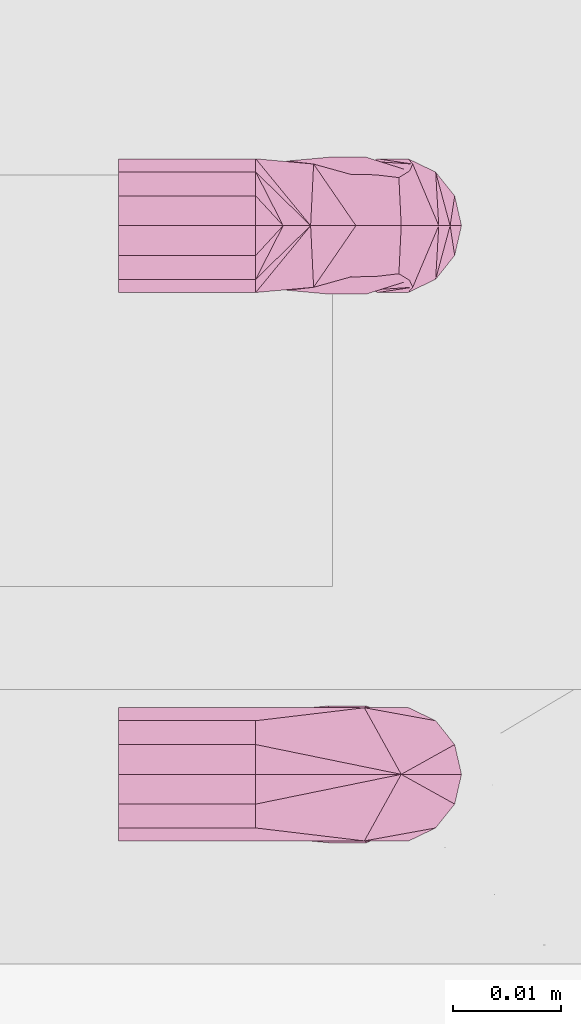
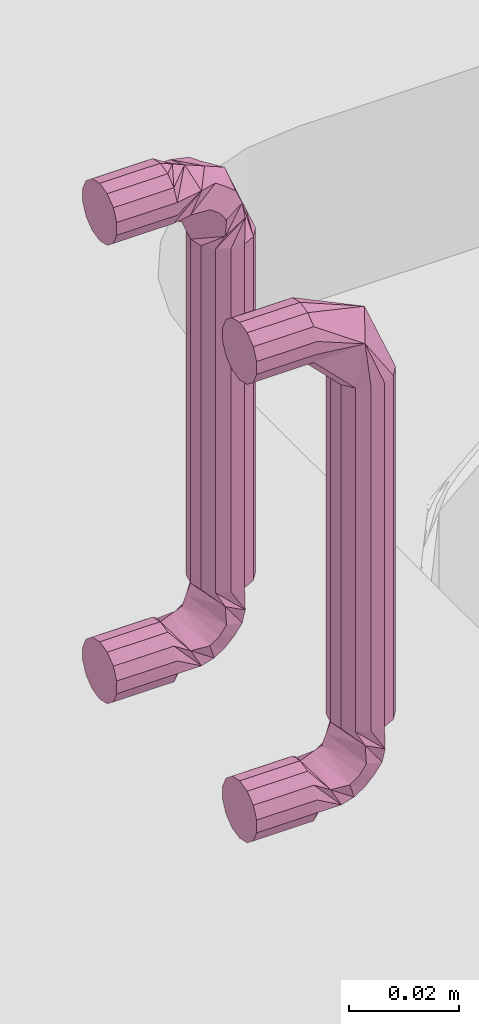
# One storey, part 31 of 40: 1 furnishing.
"""IFC2X3 building model written with IfcOpenShell, lengths in metres."""

import ifcopenshell
import ifcopenshell.guid

model = None  # the IFC model being written
_history = None  # IfcOwnerHistory: only IFC2X3 demands one
_inside = {}  # id of a spatial element -> (the spatial element, [elements in it])
_under = {}  # id of a project, library or spatial element -> (it, [spatial elements below it])
_declared = {}  # id of a project -> (the project, [libraries it declares])
_typed = {}  # id of a type object -> (the type object, [elements of that type])
_made_of = {}  # id of a material, layer set ... -> (it, [elements and type objects made of it])


def new_model(schema):
    """Start an empty IFC model of exactly this schema.

    Asked for "IFC4X3", IfcOpenShell would pick the latest addendum, in which some entities
    have other attributes; the version numbers below select the first issue.
    IFC2X3 requires an IfcOwnerHistory on every rooted entity: one is made here for all.
    """
    global model, _history
    if schema == "IFC4X3":
        model = ifcopenshell.file(schema_version=(4, 3, 0, 0))
    else:
        model = ifcopenshell.file(schema=schema)
    _inside.clear()
    _under.clear()
    _declared.clear()
    _typed.clear()
    _made_of.clear()
    _history = None
    if model.schema == "IFC2X3":
        org = make("IfcOrganization", Name="unknown")
        user = make(
            "IfcPersonAndOrganization",
            ThePerson=make("IfcPerson", FamilyName="unknown"),
            TheOrganization=org,
        )
        app = make(
            "IfcApplication",
            ApplicationDeveloper=org,
            Version="unknown",
            ApplicationFullName="unknown",
            ApplicationIdentifier="unknown",
        )
        _history = make(
            "IfcOwnerHistory",
            OwningUser=user,
            OwningApplication=app,
            ChangeAction="ADDED",
            CreationDate=0,
        )
    return model


def make(cls, **values):
    """One entity of the class cls with the attributes given. An attribute that is None is left unset."""
    return model.create_entity(
        cls, **{name: value for name, value in values.items() if value is not None}
    )


def entity(cls, *values):
    """Any entity or typed value of the class cls, its attributes in the order of the schema. None: left unset."""
    e = model.create_entity(cls)
    for i, value in enumerate(values):
        if value is not None:
            e[i] = value
    return e


def rooted(cls, **values):
    """An entity with a GlobalId (a new one), such as an element, a storey or a relation."""
    return make(cls, GlobalId=ifcopenshell.guid.new(), OwnerHistory=_history, **values)


def si_unit(unit_type, name, prefix=None):
    """IfcSIUnit, for example si_unit("LENGTHUNIT", "METRE", prefix="MILLI")."""
    return make("IfcSIUnit", UnitType=unit_type, Prefix=prefix, Name=name)


def converted_unit(unit_type, name, factor, base, dimensions=None, offset=None):
    """IfcConversionBasedUnit, such as the inch: factor (a typed value) times the base unit."""
    return make(
        "IfcConversionBasedUnit"
        if offset is None
        else "IfcConversionBasedUnitWithOffset",
        ConversionOffset=offset,
        Dimensions=None
        if dimensions is None
        else entity("IfcDimensionalExponents", *dimensions),
        UnitType=unit_type,
        Name=name,
        ConversionFactor=make(
            "IfcMeasureWithUnit", ValueComponent=factor, UnitComponent=base
        ),
    )


def derived_unit(unit_type, elements):
    """IfcDerivedUnit: a product of units, each with its exponent."""
    return make(
        "IfcDerivedUnit",
        Elements=[
            make("IfcDerivedUnitElement", Unit=unit, Exponent=power)
            for unit, power in elements
        ],
        UnitType=unit_type,
    )


def assignment(units):
    """IfcUnitAssignment: the units of a project."""
    return None if units is None else make("IfcUnitAssignment", Units=units)


def point(xyz):
    """IfcCartesianPoint."""
    return None if xyz is None else make("IfcCartesianPoint", Coordinates=xyz)


def direction(xyz):
    """IfcDirection."""
    return None if xyz is None else make("IfcDirection", DirectionRatios=xyz)


def frame(location, z_axis=None, x_axis=None):
    """IfcAxis2Placement3D, a coordinate frame: its origin and axes. An axis left out is left unset."""
    return make(
        "IfcAxis2Placement3D",
        Location=point(location),
        Axis=direction(z_axis),
        RefDirection=direction(x_axis),
    )


def origin():
    """The frame at (0, 0, 0) with its axes left unset."""
    return frame((0.0, 0.0, 0.0))


def place(relative_to, where):
    """IfcLocalPlacement: puts the frame where relative to a parent placement (None: the world)."""
    return make(
        "IfcLocalPlacement", PlacementRelTo=relative_to, RelativePlacement=where
    )


def context(
    kind, dimensions, precision=None, world=None, true_north=None, identifier=None
):
    """IfcGeometricRepresentationContext, for example the 3D "Model" context."""
    return make(
        "IfcGeometricRepresentationContext",
        ContextIdentifier=identifier,
        ContextType=kind,
        CoordinateSpaceDimension=dimensions,
        Precision=precision,
        WorldCoordinateSystem=world,
        TrueNorth=true_north,
    )


def subcontext(parent, identifier, kind, view, scale=None):
    """IfcGeometricRepresentationSubContext, for example "Body" below "Model"."""
    return make(
        "IfcGeometricRepresentationSubContext",
        ContextIdentifier=identifier,
        ContextType=kind,
        ParentContext=parent,
        TargetScale=scale,
        TargetView=view,
    )


def project(units=None, contexts=None):
    """IfcProject with its units and contexts."""
    return rooted(
        "IfcProject",
        Name="project",
        RepresentationContexts=contexts,
        UnitsInContext=assignment(units),
    )


def spatial(cls, under=None, at=None, **own):
    """A site, building, storey or space (cls), placed at a placement, below another one or the project."""
    s = rooted(cls, ObjectPlacement=at, **own)
    if under is not None:
        _under.setdefault(under.id(), (under, []))[1].append(s)
    return s


def faces_of(points, faces, orient=None, outer=None):
    """IfcFace entities. A face is a list of loops; a loop is a list of indices into points, from 0.

    orient and outer hold one flag for each loop. By default every Orientation is true, the
    first loop of a face is its IfcFaceOuterBound and the others are IfcFaceBound.
    """
    made = []
    for i, loops in enumerate(faces):
        bounds = []
        for j, loop in enumerate(loops):
            is_outer = j == 0 if outer is None else outer[i][j]
            bounds.append(
                make(
                    "IfcFaceOuterBound" if is_outer else "IfcFaceBound",
                    Bound=make("IfcPolyLoop", Polygon=[points[k] for k in loop]),
                    Orientation=True if orient is None else orient[i][j],
                )
            )
        made.append(make("IfcFace", Bounds=bounds))
    return made


def faceted_brep(points, faces, orient=None, outer=None, voids=None):
    """IfcFacetedBrep: a solid bounded by flat faces; with voids (closed shells), ...WithVoids."""
    shared = [point(p) for p in points]
    hull = make("IfcClosedShell", CfsFaces=faces_of(shared, faces, orient, outer))
    if voids is None:
        return make("IfcFacetedBrep", Outer=hull)
    return make(
        "IfcFacetedBrepWithVoids",
        Outer=hull,
        Voids=[
            make(cls, CfsFaces=faces_of(shared, fs, o, b)) for cls, fs, o, b in voids
        ],
    )


def shape(context_of_items, identifier, shape_type, items):
    """IfcShapeRepresentation: the items that make up one representation, for example the "Body"."""
    return make(
        "IfcShapeRepresentation",
        ContextOfItems=context_of_items,
        RepresentationIdentifier=identifier,
        RepresentationType=shape_type,
        Items=items,
    )


def source(mapping_origin, context_of_items, identifier, shape_type, items):
    """IfcRepresentationMap: a shape defined once, which mapped items show again and again."""
    return make(
        "IfcRepresentationMap",
        MappingOrigin=mapping_origin,
        MappedRepresentation=shape(context_of_items, identifier, shape_type, items),
    )


def transform(
    local_origin,
    x_axis=None,
    y_axis=None,
    z_axis=None,
    scale=None,
    scale2=None,
    scale3=None,
    uniform=True,
):
    """IfcCartesianTransformationOperator3D, or its non-uniform kind. x_axis, y_axis, z_axis: its Axis1, 2, 3."""
    if uniform:
        return make(
            "IfcCartesianTransformationOperator3D",
            Axis1=direction(x_axis),
            Axis2=direction(y_axis),
            LocalOrigin=point(local_origin),
            Scale=scale,
            Axis3=direction(z_axis),
        )
    return make(
        "IfcCartesianTransformationOperator3DnonUniform",
        Axis1=direction(x_axis),
        Axis2=direction(y_axis),
        LocalOrigin=point(local_origin),
        Scale=scale,
        Axis3=direction(z_axis),
        Scale2=scale2,
        Scale3=scale3,
    )


def mapped(mapping_source, mapping_target):
    """IfcMappedItem: shows the shape of a source again, moved by a transform."""
    return make(
        "IfcMappedItem", MappingSource=mapping_source, MappingTarget=mapping_target
    )


def material(Name=None, Category=None):
    """IfcMaterial."""
    return make("IfcMaterial", Name=Name, Category=Category)


def made_of(thing, what):
    """Note that an element or type object is made of a material, layer set ...; save() writes the relation."""
    if what is not None:
        _made_of.setdefault(what.id(), (what, []))[1].append(thing)
    return thing


def type_object(cls, material=None, **own):
    """A type object (cls), such as IfcWallType, which elements share."""
    return made_of(rooted(cls, **own), material)


def type_shapes(of_type, sources):
    """Give a type object the sources (RepresentationMaps) that its elements show as mapped items."""
    of_type.RepresentationMaps = sources


def element(
    cls,
    number,
    at=None,
    inside=None,
    cuts=None,
    type_object=None,
    material=None,
    context=None,
    identifier="Body",
    shape_type=None,
    held_by="IfcProductDefinitionShape",
    body=None,
    shapes=None,
    **own,
):
    """One element of the class cls, such as IfcWall. Its Tag is "e" and its number.

    at: its placement. inside: the storey or other place that contains it. cuts: it is an
    opening in that element (IfcRelVoidsElement). A single representation is given by context,
    identifier, shape_type and body (its items); several are given by shapes. held_by: the class
    of the entity that holds the representations. save() writes the other relations.
    """
    e = rooted(cls, Tag="e%d" % number, ObjectPlacement=at, **own)
    if body is not None:
        shapes = [shape(context, identifier, shape_type, body)]
    if shapes is not None:
        e.Representation = make(held_by, Representations=shapes)
    if inside is not None:
        _inside.setdefault(inside.id(), (inside, []))[1].append(e)
    if cuts is not None:
        rooted(
            "IfcRelVoidsElement", RelatingBuildingElement=cuts, RelatedOpeningElement=e
        )
    if type_object is not None:
        _typed.setdefault(type_object.id(), (type_object, []))[1].append(e)
    return made_of(e, material)


def aggregate(whole, parts):
    """IfcRelAggregates: a whole, such as a stair, and the parts it consists of."""
    return rooted("IfcRelAggregates", RelatingObject=whole, RelatedObjects=parts)


def save(model, path):
    """Write the relations noted so far, then the file.

    IfcRelAggregates (storeys below a building ...), IfcRelContainedInSpatialStructure (elements
    in a storey), IfcRelDefinesByType, IfcRelAssociatesMaterial and IfcRelDeclares: one each for
    every whole, place, type object, material and project.
    """
    for whole, parts in _under.values():
        aggregate(whole, parts)
    for where, things in _inside.values():
        rooted(
            "IfcRelContainedInSpatialStructure",
            RelatedElements=things,
            RelatingStructure=where,
        )
    for kind, things in _typed.values():
        rooted("IfcRelDefinesByType", RelatedObjects=things, RelatingType=kind)
    for what, things in _made_of.values():
        rooted("IfcRelAssociatesMaterial", RelatedObjects=things, RelatingMaterial=what)
    for by, libraries in _declared.values():
        rooted("IfcRelDeclares", RelatingContext=by, RelatedDefinitions=libraries)
    model.write(path)


model = new_model("IFC2X3")

# Units and contexts
model_context = context("Model", 3, precision=1e-05, world=origin(), true_north=direction((6.12303176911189e-17, 1.0)))
body_context = subcontext(model_context, "Body", "Model", "MODEL_VIEW")
ifc_project = project(units=[si_unit("LENGTHUNIT", "METRE"), si_unit("AREAUNIT", "SQUARE_METRE"), si_unit("VOLUMEUNIT", "CUBIC_METRE"), converted_unit("PLANEANGLEUNIT", "DEGREE", entity("IfcRatioMeasure", 0.0174532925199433), si_unit("PLANEANGLEUNIT", "RADIAN"), dimensions=[0, 0, 0, 0, 0, 0, 0]), si_unit("MASSUNIT", "GRAM", prefix="KILO"), derived_unit("MASSDENSITYUNIT", [(si_unit("MASSUNIT", "GRAM", prefix="KILO"), 1), (si_unit("LENGTHUNIT", "METRE"), -3)]), si_unit("TIMEUNIT", "SECOND"), si_unit("FREQUENCYUNIT", "HERTZ"), si_unit("THERMODYNAMICTEMPERATUREUNIT", "DEGREE_CELSIUS"), derived_unit("THERMALTRANSMITTANCEUNIT", [(si_unit("MASSUNIT", "GRAM", prefix="KILO"), 1), (si_unit("THERMODYNAMICTEMPERATUREUNIT", "KELVIN"), -1), (si_unit("TIMEUNIT", "SECOND"), -3)]), derived_unit("VOLUMETRICFLOWRATEUNIT", [(si_unit("LENGTHUNIT", "METRE"), 3), (si_unit("TIMEUNIT", "SECOND"), -1)]), si_unit("ELECTRICCURRENTUNIT", "AMPERE"), si_unit("ELECTRICVOLTAGEUNIT", "VOLT"), si_unit("POWERUNIT", "WATT"), si_unit("FORCEUNIT", "NEWTON", prefix="KILO"), si_unit("ILLUMINANCEUNIT", "LUX"), si_unit("LUMINOUSFLUXUNIT", "LUMEN"), si_unit("LUMINOUSINTENSITYUNIT", "CANDELA"), derived_unit("USERDEFINED", [(si_unit("MASSUNIT", "GRAM", prefix="KILO"), -1), (si_unit("LENGTHUNIT", "METRE"), -2), (si_unit("TIMEUNIT", "SECOND"), 3), (si_unit("LUMINOUSFLUXUNIT", "LUMEN"), 1)]), derived_unit("LINEARVELOCITYUNIT", [(si_unit("LENGTHUNIT", "METRE"), 1), (si_unit("TIMEUNIT", "SECOND"), -1)]), si_unit("PRESSUREUNIT", "PASCAL"), derived_unit("USERDEFINED", [(si_unit("LENGTHUNIT", "METRE"), -2), (si_unit("MASSUNIT", "GRAM", prefix="KILO"), 1), (si_unit("TIMEUNIT", "SECOND"), -2)])], contexts=[model_context])

# Site, building, storey, space
site_placement = place(None, origin())
site = spatial("IfcSite", under=ifc_project, at=site_placement, Name="Surface", CompositionType="ELEMENT")
building_placement = place(site_placement, origin())
building = spatial("IfcBuilding", under=site, at=building_placement, CompositionType="ELEMENT")
storey_placement = place(building_placement, origin())
storey = spatial("IfcBuildingStorey", under=building, at=storey_placement, Name="RDC", CompositionType="ELEMENT", Elevation=-1.0941605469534e-13)
space_placement = place(storey_placement, origin())
space = spatial("IfcSpace", under=storey, at=space_placement, Name="21", CompositionType="ELEMENT", InteriorOrExteriorSpace="INTERNAL")

# Furnishing
ifc_material = material(Name="Plastique - Noir")
furniture_type = type_object("IfcFurnitureType", Name="670 mm", material=ifc_material)
shared_shape = source(origin(), body_context, "Body", "Brep", [
    faceted_brep([(0.0536136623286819, 0.0, 0.10557833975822), (0.0558231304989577, 0.0, 0.103816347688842), (0.0585782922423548, 0.0, 0.103187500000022), (0.0613334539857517, 0.0, 0.103816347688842), (0.0635429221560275, 0.0, 0.10557833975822), (0.0647690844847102, 0.0, 0.108124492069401), (0.0647690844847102, 0.0, 0.110950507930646), (0.0635429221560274, 0.0, 0.113496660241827), (0.0613334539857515, 0.0, 0.115258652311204), (0.0585782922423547, 0.0, 0.115887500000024), (0.0558231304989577, 0.0, 0.115258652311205), (0.0536136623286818, 0.0, 0.113496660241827), (0.052387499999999, 0.0, 0.110950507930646), (0.052387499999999, 0.0, 0.1081244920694), (0.0585782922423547, 0.0, 0.0142875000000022), (0.0558231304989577, 0.0, 0.0136586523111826), (0.0536136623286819, 0.0, 0.0118966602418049), (0.0523874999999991, 0.0, 0.00935050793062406), (0.0523874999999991, 0.0, 0.00652449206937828), (0.0536136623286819, 0.0, 0.00397833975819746), (0.0558231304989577, 0.0, 0.00221634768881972), (0.0585782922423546, 0.0, 0.00158750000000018), (0.0613334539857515, 0.0, 0.00221634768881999), (0.0635429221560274, 0.0, 0.00397833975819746), (0.0647690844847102, 0.0, 0.00652449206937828), (0.0647690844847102, 0.0, 0.00935050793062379), (0.0635429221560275, 0.0, 0.0118966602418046), (0.0613334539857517, 0.0, 0.0136586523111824), (0.0585782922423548, 0.0127000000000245, 0.103187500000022), (0.0613334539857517, 0.0127000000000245, 0.103816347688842), (0.0635429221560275, 0.0127000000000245, 0.10557833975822), (0.0647690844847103, 0.0127000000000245, 0.108124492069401), (0.0647690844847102, 0.0127000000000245, 0.110950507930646), (0.0647690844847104, 0.0239869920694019, 0.0206375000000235), (0.0647690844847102, 0.0268130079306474, 0.0206375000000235), (0.0647690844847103, 0.0268130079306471, 0.0968375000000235), (0.0647690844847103, 0.0239869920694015, 0.0968375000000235), (0.0647690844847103, 0.0127000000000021, 0.00652449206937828), (0.0647690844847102, 0.0127000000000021, 0.00935050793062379), (0.0635429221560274, 0.0127000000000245, 0.113496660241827), (0.0613334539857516, 0.0127000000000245, 0.115258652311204), (0.0585782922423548, 0.0127000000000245, 0.115887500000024), (0.0558231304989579, 0.0127000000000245, 0.115258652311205), (0.053613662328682, 0.0127000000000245, 0.113496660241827), (0.0523874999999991, 0.0127000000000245, 0.110950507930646), (0.0523874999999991, 0.0127000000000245, 0.1081244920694), (0.0523874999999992, 0.0268130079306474, 0.0206375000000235), (0.0523874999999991, 0.0239869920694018, 0.0206375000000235), (0.0523874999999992, 0.0239869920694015, 0.0968375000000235), (0.0523874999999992, 0.0268130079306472, 0.0968375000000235), (0.0523874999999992, 0.0127000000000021, 0.00935050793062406), (0.0523874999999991, 0.0127000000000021, 0.00652449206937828), (0.0536136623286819, 0.0127000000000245, 0.10557833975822), (0.0558231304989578, 0.0127000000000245, 0.103816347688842), (0.0647426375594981, 0.0227580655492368, 0.106895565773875), (0.0635429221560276, 0.0214408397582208, 0.0968375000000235), (0.0613334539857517, 0.0196788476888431, 0.0968375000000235), (0.0585782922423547, 0.0261703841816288, 0.110307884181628), (0.0585782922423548, 0.0171901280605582, 0.101327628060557), (0.0585782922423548, 0.0190500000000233, 0.0968375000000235), (0.0635429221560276, 0.0293591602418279, 0.0968375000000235), (0.0613334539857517, 0.0311211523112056, 0.0968375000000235), (0.0585782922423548, 0.0317500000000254, 0.0968375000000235), (0.0524139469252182, 0.0227580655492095, 0.106895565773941), (0.0536136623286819, 0.0214408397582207, 0.0968375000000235), (0.0558231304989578, 0.019678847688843, 0.0968375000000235), (0.0536136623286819, 0.029359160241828, 0.0968375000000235), (0.0558231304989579, 0.0311211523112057, 0.0968375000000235), (0.0585782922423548, 0.0190500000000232, 0.0206375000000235), (0.0613334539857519, 0.0196788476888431, 0.0206375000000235), (0.0635429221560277, 0.021440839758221, 0.0206375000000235), (0.0635429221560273, 0.0293591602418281, 0.0206375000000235), (0.0613334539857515, 0.0311211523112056, 0.0206375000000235), (0.0595979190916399, 0.0315172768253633, 0.0206375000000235), (0.0585782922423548, 0.0317500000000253, 0.0206375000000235), (0.0575586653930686, 0.0315172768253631, 0.0206375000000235), (0.055823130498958, 0.0311211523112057, 0.0206375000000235), (0.0536136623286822, 0.0293591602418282, 0.0206375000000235), (0.0536136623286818, 0.0214408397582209, 0.0206375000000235), (0.0558231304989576, 0.019678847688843, 0.0206375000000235), (0.0642824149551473, 0.0180594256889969, 0.00610394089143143), (0.0585782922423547, 0.0177817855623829, 0.00369244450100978), (0.0585782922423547, 0.0198789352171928, 0.00456111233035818), (0.0585782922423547, 0.0219760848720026, 0.00542978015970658), (0.0585782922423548, 0.0314868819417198, 0.0200022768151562), (0.0585782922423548, 0.0306975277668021, 0.018096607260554), (0.0585782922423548, 0.0312237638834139, 0.0193670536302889), (0.064282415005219, 0.0272335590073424, 0.0152780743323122), (0.0585782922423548, 0.0296450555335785, 0.0155557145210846), (0.0585782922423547, 0.0279077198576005, 0.0113614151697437), (0.0633238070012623, 0.0271480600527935, 0.0118331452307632), (0.0585782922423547, 0.0270390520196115, 0.00926426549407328), (0.0632866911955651, 0.0255502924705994, 0.00956794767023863), (0.0649134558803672, 0.0229286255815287, 0.0138673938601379), (0.0585782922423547, 0.0287763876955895, 0.0134585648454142), (0.0630302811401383, 0.0237059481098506, 0.00738339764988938), (0.0585782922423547, 0.0261703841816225, 0.00716711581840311), (0.0645648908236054, 0.0228709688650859, 0.017714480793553), (0.0595979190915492, 0.0127000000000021, 0.00182022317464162), (0.0585782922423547, 0.0127000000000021, 0.00158749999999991), (0.0585782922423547, 0.0133352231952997, 0.00185061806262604), (0.0585782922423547, 0.0139704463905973, 0.00211373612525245), (0.0585782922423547, 0.0152408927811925, 0.00263997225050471), (0.0613334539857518, 0.0127000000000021, 0.00221634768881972), (0.0645648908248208, 0.0156230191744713, 0.010466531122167), (0.0635429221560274, 0.0127000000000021, 0.0118966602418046), (0.0585782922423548, 0.0127000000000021, 0.0142875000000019), (0.0613334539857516, 0.0127000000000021, 0.0136586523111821), (0.0635429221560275, 0.0127000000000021, 0.00397833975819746), (0.0585782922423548, 0.014945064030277, 0.0152174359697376), (0.0585782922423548, 0.0181200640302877, 0.0183924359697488), (0.0585782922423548, 0.0171901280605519, 0.0161473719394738), (0.0649134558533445, 0.0194701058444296, 0.0104088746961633), (0.0649215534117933, 0.0214734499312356, 0.0118640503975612), (0.0636450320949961, 0.0210762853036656, 0.00638969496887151), (0.0585782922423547, 0.0240732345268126, 0.00629844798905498), (0.05287416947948, 0.0272335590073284, 0.0152780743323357), (0.052874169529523, 0.0180594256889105, 0.00610394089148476), (0.0575586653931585, 0.0127000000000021, 0.00182022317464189), (0.0558231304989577, 0.0127000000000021, 0.00221634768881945), (0.0525916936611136, 0.0228709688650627, 0.0177144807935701), (0.0522350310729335, 0.0214734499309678, 0.0118640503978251), (0.0522431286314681, 0.0194701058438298, 0.0104088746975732), (0.0541263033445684, 0.0237059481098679, 0.00738339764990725), (0.0536136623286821, 0.0127000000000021, 0.0118966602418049), (0.0525916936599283, 0.0156230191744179, 0.0104665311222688), (0.0522431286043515, 0.0229286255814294, 0.0138673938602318), (0.0536136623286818, 0.0127000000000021, 0.00397833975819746), (0.0535115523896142, 0.0210762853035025, 0.00638969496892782), (0.0538698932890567, 0.0255502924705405, 0.00956794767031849), (0.0538327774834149, 0.0271480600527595, 0.011833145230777), (0.0558231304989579, 0.0127000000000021, 0.0136586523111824)], [[[0, 1, 2, 3, 4, 5, 6, 7, 8, 9, 10, 11, 12, 13]], [[14, 15, 16, 17, 18, 19, 20, 21, 22, 23, 24, 25, 26, 27]], [[2, 28, 29, 3]], [[29, 30, 4, 3]], [[31, 5, 4, 30]], [[31, 32, 6, 5]], [[33, 34, 35, 36]], [[25, 24, 37, 38]], [[6, 32, 39, 7]], [[39, 40, 8, 7]], [[41, 9, 8, 40]], [[9, 41, 42, 10]], [[42, 43, 11, 10]], [[44, 12, 11, 43]], [[44, 45, 13, 12]], [[46, 47, 48, 49]], [[18, 17, 50, 51]], [[13, 45, 52, 0]], [[52, 53, 1, 0]], [[28, 2, 1, 53]], [[54, 31, 30]], [[55, 30, 29, 56]], [[39, 54, 57]], [[54, 30, 55]], [[41, 40, 57]], [[32, 54, 39]], [[54, 32, 31]], [[39, 57, 40]], [[29, 28, 58]], [[58, 59, 56]], [[60, 54, 35]], [[36, 54, 55]], [[57, 54, 60]], [[57, 61, 62]], [[60, 61, 57]], [[54, 36, 35]], [[58, 56, 29]], [[42, 41, 57]], [[57, 63, 43]], [[57, 43, 42]], [[45, 44, 63]], [[43, 63, 44]], [[64, 65, 53, 52]], [[58, 28, 53]], [[45, 63, 52]], [[49, 48, 63]], [[63, 66, 49]], [[67, 66, 57]], [[64, 63, 48]], [[59, 58, 65]], [[66, 63, 57]], [[65, 58, 53]], [[52, 63, 64]], [[67, 57, 62]], [[59, 68, 69, 56]], [[70, 33, 36, 55]], [[56, 69, 70, 55]], [[34, 71, 60, 35]], [[61, 72, 73, 74, 62]], [[71, 72, 61, 60]], [[62, 74, 75, 76, 67]], [[76, 77, 66, 67]], [[46, 49, 66, 77]], [[48, 47, 78, 64]], [[64, 78, 79, 65]], [[65, 79, 68, 59]], [[80, 81, 82, 83]], [[84, 74, 73, 72, 85, 86]], [[34, 87, 88]], [[71, 85, 72]], [[89, 90, 91]], [[92, 90, 93]], [[87, 89, 94, 88]], [[87, 34, 33]], [[92, 95, 96]], [[87, 33, 70]], [[88, 71, 34]], [[70, 69, 97]], [[98, 99, 100, 101, 102, 103]], [[92, 91, 90]], [[104, 105, 80]], [[104, 106, 107]], [[107, 105, 104]], [[102, 81, 108]], [[88, 85, 71]], [[91, 92, 96]], [[81, 37, 108]], [[104, 109, 106]], [[97, 110, 93]], [[102, 108, 103]], [[70, 97, 87]], [[111, 112, 113]], [[38, 80, 105]], [[80, 38, 37]], [[114, 95, 112]], [[68, 97, 69]], [[90, 97, 93]], [[114, 104, 80]], [[112, 109, 104]], [[110, 97, 68]], [[110, 111, 93]], [[93, 113, 92]], [[92, 113, 95]], [[112, 104, 114]], [[114, 115, 95]], [[89, 87, 90]], [[97, 90, 87]], [[111, 113, 93]], [[95, 113, 112]], [[80, 83, 114]], [[112, 111, 109]], [[115, 114, 83]], [[115, 96, 95]], [[81, 80, 37]], [[75, 74, 84, 86, 85, 76]], [[88, 46, 77]], [[116, 88, 94, 89]], [[117, 83, 82, 81]], [[76, 85, 77]], [[118, 119, 102, 101, 100, 99]], [[78, 120, 79]], [[79, 120, 68]], [[121, 122, 111]], [[123, 122, 121]], [[124, 125, 117]], [[110, 120, 126]], [[47, 116, 78]], [[50, 117, 51]], [[81, 127, 51]], [[116, 47, 46]], [[128, 122, 123]], [[85, 88, 77]], [[88, 116, 46]], [[120, 78, 116]], [[124, 117, 50]], [[127, 102, 119]], [[81, 102, 127]], [[121, 111, 126]], [[91, 129, 130]], [[117, 81, 51]], [[91, 130, 89]], [[91, 96, 129]], [[124, 131, 125]], [[130, 120, 116]], [[126, 111, 110]], [[106, 125, 131]], [[128, 125, 122]], [[126, 130, 129]], [[68, 120, 110]], [[123, 129, 96]], [[121, 126, 129]], [[128, 115, 83]], [[128, 117, 125]], [[120, 130, 126]], [[116, 89, 130]], [[123, 121, 129]], [[125, 109, 122]], [[128, 123, 115]], [[83, 117, 128]], [[123, 96, 115]], [[109, 125, 106]], [[109, 111, 122]], [[106, 14, 27, 107]], [[27, 26, 105, 107]], [[25, 38, 105, 26]], [[37, 24, 23, 108]], [[23, 22, 103, 108]], [[21, 99, 98, 103, 22]], [[99, 21, 20, 119, 118]], [[20, 19, 127, 119]], [[18, 51, 127, 19]], [[50, 17, 16, 124]], [[16, 15, 131, 124]], [[14, 106, 131, 15]]]),
    faceted_brep([(0.00502313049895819, 0.0, 0.103816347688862), (0.00777829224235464, 0.0, 0.103187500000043), (0.0105334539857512, 0.0, 0.103816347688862), (0.0127429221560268, 0.0, 0.10557833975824), (0.0139690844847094, 0.0, 0.10812449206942), (0.0139690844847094, 0.0, 0.110950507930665), (0.0127429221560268, 0.0, 0.113496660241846), (0.0105334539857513, 0.0, 0.115258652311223), (0.00777829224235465, 0.0, 0.115887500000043), (0.00502313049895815, 0.0, 0.115258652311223), (0.00281366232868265, 0.0, 0.113496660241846), (0.00158750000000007, 0.0, 0.110950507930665), (0.00158750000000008, 0.0, 0.10812449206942), (0.00281366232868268, 0.0, 0.10557833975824), (0.0127429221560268, 0.0, 0.003978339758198), (0.0139690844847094, 0.0, 0.00652449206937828), (0.0139690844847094, 0.0, 0.00935050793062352), (0.0127429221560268, 0.0, 0.0118966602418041), (0.0105334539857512, 0.0, 0.0136586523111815), (0.0077782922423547, 0.0, 0.0142875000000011), (0.00502313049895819, 0.0, 0.0136586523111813), (0.00281366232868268, 0.0, 0.0118966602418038), (0.00158750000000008, 0.0, 0.00935050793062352), (0.00158750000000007, 0.0, 0.00652449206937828), (0.00281366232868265, 0.0, 0.003978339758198), (0.00502313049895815, 0.0, 0.00221634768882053), (0.00777829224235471, 0.0, 0.00158750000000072), (0.0105334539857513, 0.0, 0.00221634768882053), (0.0077782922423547, 0.0126999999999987, 0.103187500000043), (0.0105334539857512, 0.0126999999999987, 0.103816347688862), (0.0127429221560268, 0.0126999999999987, 0.10557833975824), (0.0139690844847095, 0.0126999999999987, 0.10812449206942), (0.0139690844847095, 0.0126999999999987, 0.110950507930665), (0.0139690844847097, 0.023986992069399, 0.0206375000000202), (0.0139690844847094, 0.0268130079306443, 0.0206375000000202), (0.0139690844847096, 0.0268130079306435, 0.0968375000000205), (0.0139690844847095, 0.0239869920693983, 0.0968375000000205), (0.0139690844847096, 0.0127000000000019, 0.00652449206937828), (0.0139690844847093, 0.0127000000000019, 0.00935050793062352), (0.012742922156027, 0.0126999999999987, 0.113496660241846), (0.0105334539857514, 0.0126999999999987, 0.115258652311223), (0.00879791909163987, 0.0126999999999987, 0.115654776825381), (0.00777829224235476, 0.0126999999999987, 0.115887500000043), (0.00675866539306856, 0.0126999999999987, 0.11565477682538), (0.00502313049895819, 0.0126999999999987, 0.115258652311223), (0.00281366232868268, 0.0126999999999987, 0.113496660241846), (0.00158750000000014, 0.0126999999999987, 0.110950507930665), (0.00158750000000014, 0.0126999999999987, 0.10812449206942), (0.00158750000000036, 0.0268130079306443, 0.0206375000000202), (0.00158750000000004, 0.0239869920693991, 0.0206375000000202), (0.0015875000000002, 0.0239869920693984, 0.0968375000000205), (0.0015875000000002, 0.0268130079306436, 0.0968375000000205), (0.00158750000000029, 0.0127000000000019, 0.00935050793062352), (0.0015875, 0.0127000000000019, 0.00652449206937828), (0.00281366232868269, 0.0126999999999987, 0.10557833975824), (0.00502313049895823, 0.0126999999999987, 0.103816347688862), (0.0134824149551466, 0.0272335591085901, 0.102196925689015), (0.00777829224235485, 0.0296450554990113, 0.101919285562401), (0.00777829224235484, 0.0287763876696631, 0.104016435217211), (0.00777829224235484, 0.0279077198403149, 0.106113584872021), (0.00777829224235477, 0.0133352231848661, 0.115624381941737), (0.00777829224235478, 0.0152408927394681, 0.114835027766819), (0.00777829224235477, 0.0139704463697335, 0.115361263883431), (0.0134824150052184, 0.0180594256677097, 0.11137105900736), (0.00777829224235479, 0.0177817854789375, 0.113782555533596), (0.00777829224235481, 0.0219760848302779, 0.112045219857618), (0.0125238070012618, 0.0215043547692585, 0.111285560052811), (0.00777829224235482, 0.0240732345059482, 0.111176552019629), (0.0137648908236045, 0.015623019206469, 0.107008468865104), (0.00777829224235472, 0.0149450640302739, 0.102257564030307), (0.0141134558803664, 0.0194701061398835, 0.107066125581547), (0.0077782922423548, 0.0198789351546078, 0.112913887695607), (0.0124866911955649, 0.0237695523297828, 0.109687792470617), (0.0122302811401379, 0.0259541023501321, 0.107843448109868), (0.00777829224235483, 0.0261703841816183, 0.11030788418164), (0.00879791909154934, 0.0315172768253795, 0.0968375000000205), (0.00777829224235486, 0.0317500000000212, 0.0968375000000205), (0.00777829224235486, 0.031486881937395, 0.097472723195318), (0.00777829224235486, 0.0312237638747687, 0.0981079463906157), (0.00777829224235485, 0.0306975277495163, 0.0993783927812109), (0.0105334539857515, 0.0311211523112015, 0.0968375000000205), (0.0137648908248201, 0.022870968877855, 0.0997605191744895), (0.0127429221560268, 0.0214408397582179, 0.0968375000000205), (0.00777829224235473, 0.0190500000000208, 0.0968375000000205), (0.0105334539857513, 0.0196788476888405, 0.0968375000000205), (0.012742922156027, 0.029359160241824, 0.0968375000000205), (0.00777829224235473, 0.0181200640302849, 0.0990825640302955), (0.00777829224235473, 0.017190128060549, 0.101327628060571), (0.0141134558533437, 0.0229286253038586, 0.103607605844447), (0.0141215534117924, 0.0214734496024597, 0.105610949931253), (0.0128450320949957, 0.0269478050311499, 0.105213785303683), (0.00777829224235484, 0.0270390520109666, 0.10821073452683), (0.00207416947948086, 0.0180594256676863, 0.111371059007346), (0.00207416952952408, 0.0272335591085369, 0.102196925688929), (0.00675866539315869, 0.0315172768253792, 0.0968375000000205), (0.0050231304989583, 0.0311211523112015, 0.0968375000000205), (0.00179169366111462, 0.0156230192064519, 0.107008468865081), (0.00143503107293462, 0.0214734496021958, 0.105610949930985), (0.00144312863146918, 0.0229286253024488, 0.103607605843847), (0.00332630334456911, 0.0259541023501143, 0.107843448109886), (0.00281366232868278, 0.0214408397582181, 0.0968375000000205), (0.00179169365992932, 0.0228709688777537, 0.0997605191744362), (0.00281366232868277, 0.029359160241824, 0.0968375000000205), (0.00271155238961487, 0.0269478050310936, 0.10521378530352), (0.00144312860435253, 0.0194701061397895, 0.107066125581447), (0.00306989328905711, 0.0237695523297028, 0.109687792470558), (0.00303277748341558, 0.0215043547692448, 0.111285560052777), (0.00502313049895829, 0.0196788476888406, 0.0968375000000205), (0.00777829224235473, 0.0190500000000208, 0.0206375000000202), (0.0105334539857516, 0.0196788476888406, 0.0206375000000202), (0.0127429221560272, 0.0214408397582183, 0.0206375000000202), (0.0127429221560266, 0.0293591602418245, 0.0206375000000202), (0.0105334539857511, 0.0311211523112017, 0.0206375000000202), (0.00879791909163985, 0.0315172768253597, 0.0206375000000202), (0.00777829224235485, 0.0317500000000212, 0.0206375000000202), (0.00675866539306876, 0.0315172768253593, 0.0206375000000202), (0.00502313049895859, 0.0311211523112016, 0.0206375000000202), (0.00281366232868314, 0.0293591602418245, 0.0206375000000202), (0.00281366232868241, 0.0214408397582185, 0.0206375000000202), (0.005023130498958, 0.0196788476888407, 0.0206375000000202), (0.0134824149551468, 0.0180594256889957, 0.00610394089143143), (0.00777829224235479, 0.0177817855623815, 0.00369244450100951), (0.0077782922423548, 0.0198789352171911, 0.00456111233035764), (0.00777829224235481, 0.0219760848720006, 0.00542978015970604), (0.00777829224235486, 0.0314868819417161, 0.0200022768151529), (0.00777829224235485, 0.0306975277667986, 0.0180966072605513), (0.00777829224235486, 0.0312237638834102, 0.0193670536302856), (0.0134824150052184, 0.0272335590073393, 0.01527807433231), (0.00777829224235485, 0.0296450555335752, 0.0155557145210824), (0.00777829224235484, 0.0279077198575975, 0.0113614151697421), (0.0125238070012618, 0.0271480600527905, 0.0118331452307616), (0.00777829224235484, 0.0270390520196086, 0.00926426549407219), (0.0137648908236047, 0.0228709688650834, 0.0177144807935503), (0.00777829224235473, 0.018120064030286, 0.018392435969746), (0.0141134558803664, 0.0229286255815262, 0.013867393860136), (0.00777829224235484, 0.0287763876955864, 0.0134585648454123), (0.0124866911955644, 0.0255502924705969, 0.00956794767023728), (0.0122302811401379, 0.0237059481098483, 0.00738339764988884), (0.00777829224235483, 0.0261703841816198, 0.0071671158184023), (0.00879791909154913, 0.0127000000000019, 0.00182022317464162), (0.00777829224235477, 0.0127000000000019, 0.00158750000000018), (0.00777829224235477, 0.0133352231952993, 0.00185061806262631), (0.00777829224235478, 0.0139704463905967, 0.00211373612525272), (0.00777829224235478, 0.0152408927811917, 0.00263997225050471), (0.0105334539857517, 0.0127000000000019, 0.00221634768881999), (0.01376489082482, 0.0156230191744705, 0.0104665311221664), (0.0127429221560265, 0.0127000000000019, 0.0118966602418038), (0.0077782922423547, 0.0127000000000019, 0.0142875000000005), (0.0105334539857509, 0.0127000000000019, 0.013658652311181), (0.0127429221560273, 0.0127000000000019, 0.00397833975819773), (0.00777829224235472, 0.0149450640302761, 0.0152174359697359), (0.00777829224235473, 0.0171901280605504, 0.0161473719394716), (0.0141134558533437, 0.0194701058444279, 0.0104088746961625), (0.0141215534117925, 0.021473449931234, 0.0118640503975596), (0.0128450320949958, 0.0210762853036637, 0.00638969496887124), (0.00777829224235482, 0.0240732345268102, 0.00629844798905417), (0.00207416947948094, 0.0272335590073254, 0.0152780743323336), (0.00207416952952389, 0.0180594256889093, 0.00610394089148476), (0.00675866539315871, 0.0127000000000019, 0.00182022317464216), (0.00502313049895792, 0.0127000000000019, 0.00221634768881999), (0.00179169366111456, 0.0228709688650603, 0.0177144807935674), (0.00143503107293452, 0.0214734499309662, 0.0118640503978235), (0.00144312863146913, 0.0194701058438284, 0.0104088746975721), (0.00332630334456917, 0.0237059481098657, 0.00738339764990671), (0.00281366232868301, 0.0127000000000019, 0.0118966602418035), (0.00179169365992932, 0.015623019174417, 0.0104665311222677), (0.00281366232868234, 0.0127000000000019, 0.00397833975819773), (0.00271155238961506, 0.0210762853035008, 0.00638969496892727), (0.0014431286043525, 0.0229286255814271, 0.0138673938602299), (0.00306989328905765, 0.0255502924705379, 0.00956794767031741), (0.00303277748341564, 0.0271480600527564, 0.0118331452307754), (0.00502313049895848, 0.0127000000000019, 0.0136586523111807)], [[[0, 1, 2, 3, 4, 5, 6, 7, 8, 9, 10, 11, 12, 13]], [[14, 15, 16, 17, 18, 19, 20, 21, 22, 23, 24, 25, 26, 27]], [[1, 28, 29, 2]], [[29, 30, 3, 2]], [[31, 4, 3, 30]], [[31, 32, 5, 4]], [[33, 34, 35, 36]], [[16, 15, 37, 38]], [[5, 32, 39, 6]], [[39, 40, 7, 6]], [[7, 40, 41, 42, 8]], [[8, 42, 43, 44, 9]], [[44, 45, 10, 9]], [[46, 11, 10, 45]], [[46, 47, 12, 11]], [[48, 49, 50, 51]], [[23, 22, 52, 53]], [[12, 47, 54, 13]], [[54, 55, 0, 13]], [[28, 1, 0, 55]], [[56, 57, 58, 59]], [[60, 42, 41, 40, 61, 62]], [[32, 63, 64]], [[39, 61, 40]], [[65, 66, 67]], [[68, 69, 70]], [[63, 65, 71, 64]], [[63, 32, 31]], [[72, 73, 74]], [[63, 31, 30]], [[64, 39, 32]], [[30, 29, 68]], [[75, 76, 77, 78, 79, 80]], [[72, 67, 66]], [[81, 82, 56]], [[81, 83, 84]], [[84, 82, 81]], [[79, 57, 85]], [[64, 61, 39]], [[67, 72, 74]], [[57, 35, 85]], [[81, 86, 83]], [[68, 28, 69]], [[79, 85, 80]], [[30, 68, 63]], [[87, 88, 89]], [[36, 56, 82]], [[56, 36, 35]], [[90, 73, 88]], [[28, 68, 29]], [[66, 68, 70]], [[90, 81, 56]], [[88, 86, 81]], [[72, 66, 70]], [[87, 70, 69]], [[70, 89, 72]], [[72, 89, 73]], [[88, 81, 90]], [[90, 91, 73]], [[65, 63, 66]], [[68, 66, 63]], [[87, 89, 70]], [[73, 89, 88]], [[56, 59, 90]], [[88, 87, 86]], [[91, 90, 59]], [[91, 74, 73]], [[57, 56, 35]], [[43, 42, 60, 62, 61, 44]], [[64, 46, 45]], [[92, 64, 71, 65]], [[93, 59, 58, 57]], [[44, 61, 45]], [[94, 95, 79, 78, 77, 76]], [[54, 96, 55]], [[55, 96, 28]], [[97, 98, 87]], [[99, 98, 97]], [[100, 101, 93]], [[69, 28, 96]], [[47, 92, 54]], [[50, 93, 51]], [[57, 102, 51]], [[92, 47, 46]], [[103, 98, 99]], [[61, 64, 45]], [[64, 92, 46]], [[96, 54, 92]], [[100, 93, 50]], [[102, 79, 95]], [[57, 79, 102]], [[97, 87, 104]], [[67, 105, 106]], [[93, 57, 51]], [[67, 106, 65]], [[67, 74, 105]], [[100, 107, 101]], [[106, 96, 92]], [[104, 69, 96]], [[83, 101, 107]], [[103, 101, 98]], [[104, 87, 69]], [[104, 106, 105]], [[99, 105, 74]], [[97, 104, 105]], [[103, 91, 59]], [[103, 93, 101]], [[96, 106, 104]], [[92, 65, 106]], [[99, 97, 105]], [[101, 86, 98]], [[103, 99, 91]], [[59, 93, 103]], [[99, 74, 91]], [[86, 101, 83]], [[86, 87, 98]], [[83, 108, 109, 84]], [[109, 110, 82, 84]], [[33, 36, 82, 110]], [[35, 34, 111, 85]], [[85, 111, 112, 80]], [[80, 112, 113, 114, 76, 75]], [[76, 114, 115, 116, 95, 94]], [[117, 48, 51, 102]], [[95, 116, 117, 102]], [[49, 118, 100, 50]], [[119, 108, 83, 107]], [[118, 119, 107, 100]], [[120, 121, 122, 123]], [[124, 114, 113, 112, 125, 126]], [[34, 127, 128]], [[111, 125, 112]], [[129, 130, 131]], [[132, 133, 134]], [[127, 129, 135, 128]], [[127, 34, 33]], [[136, 137, 138]], [[127, 33, 110]], [[128, 111, 34]], [[110, 109, 132]], [[139, 140, 141, 142, 143, 144]], [[136, 131, 130]], [[145, 146, 120]], [[145, 147, 148]], [[148, 146, 145]], [[143, 121, 149]], [[128, 125, 111]], [[131, 136, 138]], [[121, 37, 149]], [[145, 150, 147]], [[132, 108, 133]], [[143, 149, 144]], [[110, 132, 127]], [[151, 152, 153]], [[38, 120, 146]], [[120, 38, 37]], [[154, 137, 152]], [[108, 132, 109]], [[130, 132, 134]], [[154, 145, 120]], [[152, 150, 145]], [[136, 130, 134]], [[151, 134, 133]], [[134, 153, 136]], [[136, 153, 137]], [[152, 145, 154]], [[154, 155, 137]], [[129, 127, 130]], [[132, 130, 127]], [[151, 153, 134]], [[137, 153, 152]], [[120, 123, 154]], [[152, 151, 150]], [[155, 154, 123]], [[155, 138, 137]], [[121, 120, 37]], [[115, 114, 124, 126, 125, 116]], [[128, 48, 117]], [[156, 128, 135, 129]], [[157, 123, 122, 121]], [[116, 125, 117]], [[158, 159, 143, 142, 141, 140]], [[118, 160, 119]], [[119, 160, 108]], [[161, 162, 151]], [[163, 162, 161]], [[164, 165, 157]], [[133, 108, 160]], [[49, 156, 118]], [[52, 157, 53]], [[121, 166, 53]], [[156, 49, 48]], [[167, 162, 163]], [[125, 128, 117]], [[128, 156, 48]], [[160, 118, 156]], [[164, 157, 52]], [[166, 143, 159]], [[121, 143, 166]], [[161, 151, 168]], [[131, 169, 170]], [[157, 121, 53]], [[131, 170, 129]], [[131, 138, 169]], [[164, 171, 165]], [[170, 160, 156]], [[168, 133, 160]], [[147, 165, 171]], [[167, 165, 162]], [[168, 151, 133]], [[168, 170, 169]], [[163, 169, 138]], [[161, 168, 169]], [[167, 155, 123]], [[167, 157, 165]], [[160, 170, 168]], [[156, 129, 170]], [[163, 161, 169]], [[165, 150, 162]], [[167, 163, 155]], [[123, 157, 167]], [[163, 138, 155]], [[150, 165, 147]], [[150, 151, 162]], [[147, 19, 18, 148]], [[18, 17, 146, 148]], [[16, 38, 146, 17]], [[37, 15, 14, 149]], [[14, 27, 144, 149]], [[26, 140, 139, 144, 27]], [[140, 26, 25, 159, 158]], [[25, 24, 166, 159]], [[23, 53, 166, 24]], [[52, 22, 21, 164]], [[21, 20, 171, 164]], [[19, 147, 171, 20]]]),
])
type_shapes(furniture_type, [shared_shape])
furnishing_placement = place(space_placement, frame((-2.18978888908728, 6.65518896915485, 1.44286249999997), z_axis=(0.0, 0.0, 1.0), x_axis=(0.0, -1.0, 0.0)))
element("IfcFurnishingElement", 1, at=furnishing_placement, inside=space, type_object=furniture_type, material=ifc_material, Name="Placard mural haut-Porte double vitrée:670 mm", ObjectType="670 mm", context=body_context, shape_type="MappedRepresentation", body=[
    mapped(shared_shape, transform((0.0, 0.0, 0.0), scale=1.0)),
])

save(model, "model.ifc")
